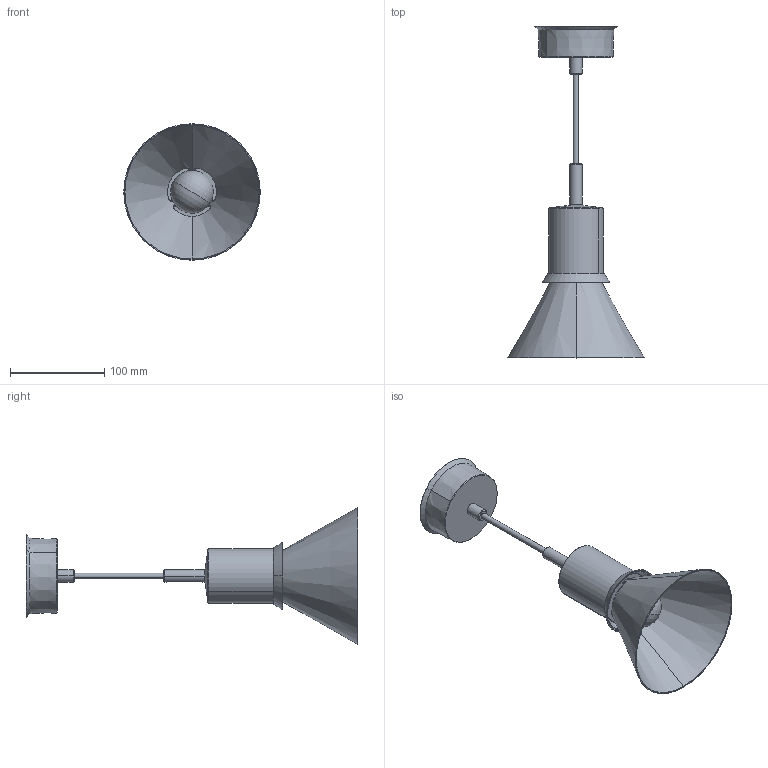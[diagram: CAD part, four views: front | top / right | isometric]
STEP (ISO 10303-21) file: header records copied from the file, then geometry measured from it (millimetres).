
FILE_DESCRIPTION (( 'STEP AP214' ), '1' );
FILE_NAME ('TYPE 80_PENDANT_STEP_01.STEP', '2019-08-01T16:23:53', ( '' ), ( '' ), 'SwSTEP 2.0', 'SolidWorks 2017', '' );
FILE_SCHEMA (( 'AUTOMOTIVE_DESIGN' ));
Length unit declared in the file: millimetre
Products named in the file (1): TYPE 80_PENDANT_STEP_01
Bounding box: 144.64 x 351.73 x 144.64 mm (x, y, z)
Volume: 458025 mm3; surface area: 110394.1 mm2
Topology: 1 solids, 1 shells, 99 faces, 322 edges, 245 vertices
Faces by surface type: cone 31, plane 26, cylinder 20, torus 12, bspline 6, sphere 4
Entity records: 5863 total; most frequent: CARTESIAN_POINT 1945, ORIENTED_EDGE 634, DIRECTION 552, EDGE_CURVE 317, VERTEX_POINT 242, AXIS2_PLACEMENT_3D 214, EDGE_LOOP 127, VECTOR 124
